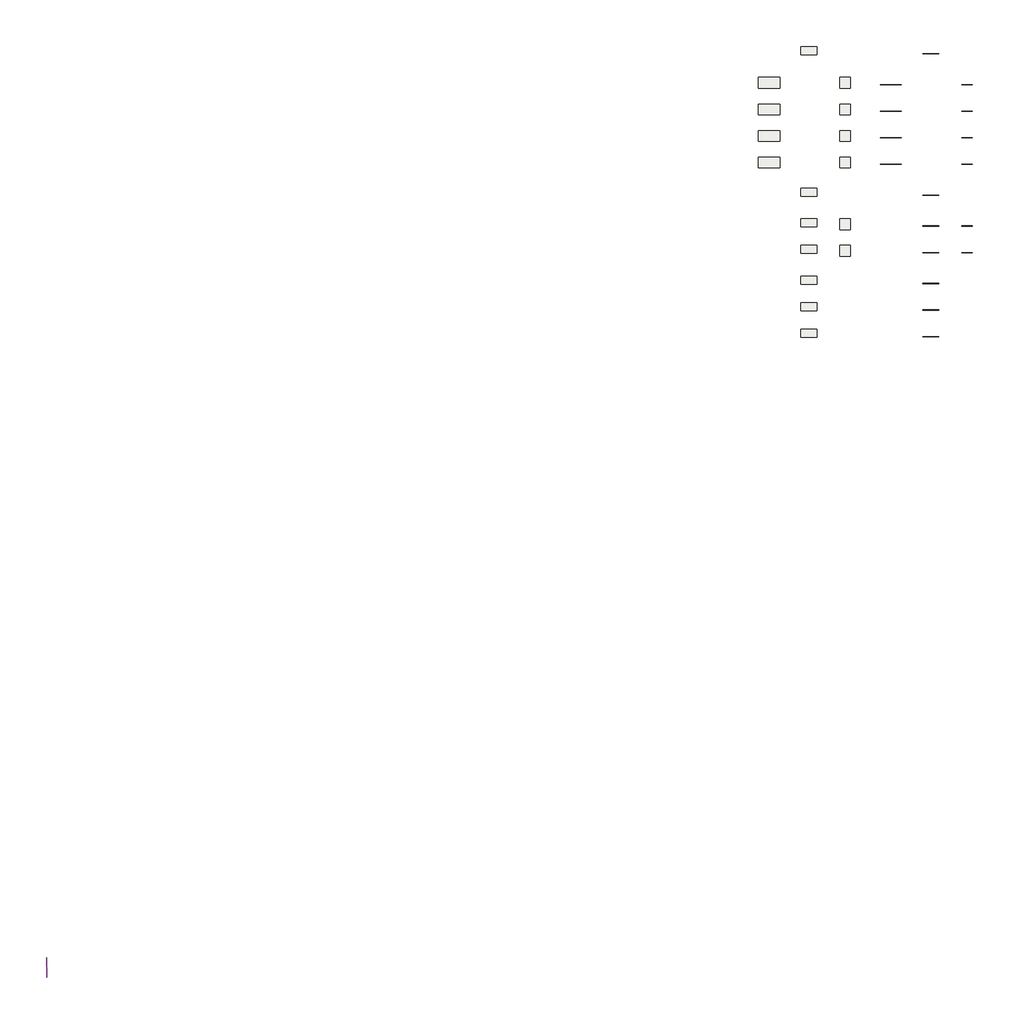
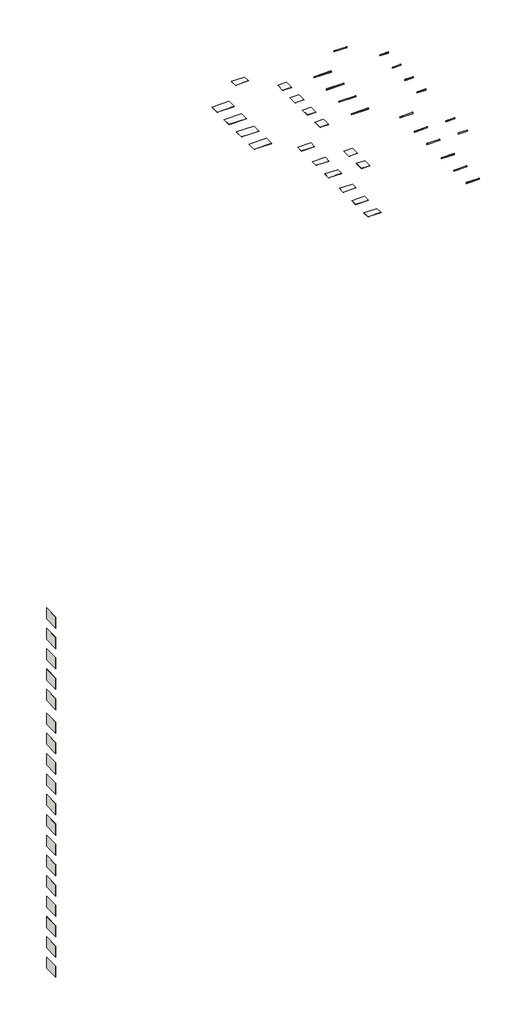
# One storey: 35 walls, 17 proxies, 17 slabs.
"""IFC4 building model written with IfcOpenShell, lengths in millimetres."""

from ifc_helpers import new_model, si_unit, frame, origin, origin_with_axes, place, context, project, spatial, polyline, outline, extrude, element, save

model = new_model("IFC4")

# Units and contexts
model_context = context("Model", 3, world=origin())
ifc_project = project(units=[si_unit("LENGTHUNIT", "METRE", prefix="MILLI")], contexts=[model_context])

# Site, building, storey
site = spatial("IfcSite", under=ifc_project)
building = spatial("IfcBuilding", under=site)
storey = spatial("IfcBuildingStorey", under=building, Name="apariencia CEMENTO", Elevation=0.0)

# Proxies
placement = place(None, origin())
element("IfcBuildingElementProxy", 1, Name="Cesantoni_Frau_8x90_RO_Frau_Mate", ObjectType="Cesantoni_Frau_8x90_RO_Frau_Mate", at=placement, inside=storey, context=model_context, shape_type="SweptSolid", body=[
    extrude(outline(polyline([(8069.8218898, 374.781227), (8069.8218898, 385.781227), (8969.8218898, 385.781227), (8969.8218898, 374.781227), (8069.8218898, 374.781227)])), origin_with_axes(), (0.0, 0.0, 1.0), 80.0),
])
element("IfcBuildingElementProxy", 2, Name="Cesantoni_Leighton_8x60_RO_Sand_Mate", ObjectType="Cesantoni_Leighton_8x60_RO_Sand_Mate", at=placement, inside=storey, context=model_context, shape_type="SweptSolid", body=[
    extrude(outline(polyline([(10269.8218898, -1375.218773), (10269.8218898, -1364.218773), (10869.8218898, -1364.218773), (10869.8218898, -1375.218773), (10269.8218898, -1375.218773)])), origin_with_axes(), (0.0, 0.0, 1.0), 80.0),
])
element("IfcBuildingElementProxy", 3, Name="Cesantoni_Leighton_8x60_RO_Light_Mate", ObjectType="Cesantoni_Leighton_8x60_RO_Light_Mate", at=placement, inside=storey, context=model_context, shape_type="SweptSolid", body=[
    extrude(outline(polyline([(10269.8218898, -2875.218773), (10269.8218898, -2864.218773), (10869.8218898, -2864.218773), (10869.8218898, -2875.218773), (10269.8218898, -2875.218773)])), origin_with_axes(), (0.0, 0.0, 1.0), 80.0),
])
element("IfcBuildingElementProxy", 4, Name="Cesantoni_Leighton_8x60_RO_Gray_Mate", ObjectType="Cesantoni_Leighton_8x60_RO_Gray_Mate", at=placement, inside=storey, context=model_context, shape_type="SweptSolid", body=[
    extrude(outline(polyline([(10269.8218898, -4375.218773), (10269.8218898, -4364.218773), (10869.8218898, -4364.218773), (10869.8218898, -4375.218773), (10269.8218898, -4375.218773)])), origin_with_axes(), (0.0, 0.0, 1.0), 80.0),
])
element("IfcBuildingElementProxy", 5, Name="Cesantoni_Leighton_8x60_RO_Dark_Mate", ObjectType="Cesantoni_Leighton_8x60_RO_Dark_Mate", at=placement, inside=storey, context=model_context, shape_type="SweptSolid", body=[
    extrude(outline(polyline([(10269.8218898, -5875.218773), (10269.8218898, -5864.218773), (10869.8218898, -5864.218773), (10869.8218898, -5875.218773), (10269.8218898, -5875.218773)])), origin_with_axes(), (0.0, 0.0, 1.0), 80.0),
])
element("IfcBuildingElementProxy", 6, Name="Cesantoni_Leighton_8x120_RO_Sand_Mate", ObjectType="Cesantoni_Leighton_8x120_RO_Sand_Mate", at=placement, inside=storey, context=model_context, shape_type="SweptSolid", body=[
    extrude(outline(polyline([(5669.8218898, -1375.218773), (5669.8218898, -1364.218773), (6869.8218898, -1364.218773), (6869.8218898, -1375.218773), (5669.8218898, -1375.218773)])), origin_with_axes(), (0.0, 0.0, 1.0), 80.0),
])
element("IfcBuildingElementProxy", 7, Name="Cesantoni_Leighton_8x120_RO_Light_Mate", ObjectType="Cesantoni_Leighton_8x120_RO_Light_Mate", at=placement, inside=storey, context=model_context, shape_type="SweptSolid", body=[
    extrude(outline(polyline([(5669.8218898, -2875.218773), (5669.8218898, -2864.218773), (6869.8218898, -2864.218773), (6869.8218898, -2875.218773), (5669.8218898, -2875.218773)])), origin_with_axes(), (0.0, 0.0, 1.0), 80.0),
])
element("IfcBuildingElementProxy", 8, Name="Cesantoni_Leighton_8x120_RO_Gray_Mate", ObjectType="Cesantoni_Leighton_8x120_RO_Gray_Mate", at=placement, inside=storey, context=model_context, shape_type="SweptSolid", body=[
    extrude(outline(polyline([(5669.8218898, -4375.218773), (5669.8218898, -4364.218773), (6869.8218898, -4364.218773), (6869.8218898, -4375.218773), (5669.8218898, -4375.218773)])), origin_with_axes(), (0.0, 0.0, 1.0), 80.0),
])
element("IfcBuildingElementProxy", 9, Name="Cesantoni_Leighton_8x120_RO_Dark_Mate", ObjectType="Cesantoni_Leighton_8x120_RO_Dark_Mate", at=placement, inside=storey, context=model_context, shape_type="SweptSolid", body=[
    extrude(outline(polyline([(5669.8218898, -5875.218773), (5669.8218898, -5864.218773), (6869.8218898, -5864.218773), (6869.8218898, -5875.218773), (5669.8218898, -5875.218773)])), origin_with_axes(), (0.0, 0.0, 1.0), 80.0),
])
element("IfcBuildingElementProxy", 10, Name="Cesantoni_Nouvelle_8x90_RO_Nouvelle_Mate", ObjectType="Cesantoni_Nouvelle_8x90_RO_Nouvelle_Mate", at=placement, inside=storey, context=model_context, shape_type="SweptSolid", body=[
    extrude(outline(polyline([(8069.8218898, -7625.218773), (8069.8218898, -7614.218773), (8969.8218898, -7614.218773), (8969.8218898, -7625.218773), (8069.8218898, -7625.218773)])), origin_with_axes(), (0.0, 0.0, 1.0), 80.0),
])
element("IfcBuildingElementProxy", 11, Name="Cesantoni_Padova_8x60_RO_Oxford_Mate", ObjectType="Cesantoni_Padova_8x60_RO_Oxford_Mate", at=placement, inside=storey, context=model_context, shape_type="SweptSolid", body=[
    extrude(outline(polyline([(10269.8218898, -9375.218773), (10269.8218898, -9364.218773), (10869.8218898, -9364.218773), (10869.8218898, -9375.218773), (10269.8218898, -9375.218773)])), origin_with_axes(), (0.0, 0.0, 1.0), 80.0),
])
element("IfcBuildingElementProxy", 12, Name="Cesantoni_Padova_8x60_RO_Perla_Mate", ObjectType="Cesantoni_Padova_8x60_RO_Perla_Mate", at=placement, inside=storey, context=model_context, shape_type="SweptSolid", body=[
    extrude(outline(polyline([(10269.8218898, -10875.218773), (10269.8218898, -10864.218773), (10869.8218898, -10864.218773), (10869.8218898, -10875.218773), (10269.8218898, -10875.218773)])), origin_with_axes(), (0.0, 0.0, 1.0), 80.0),
])
element("IfcBuildingElementProxy", 13, Name="Cesantoni_Padova _8x90_RO_Oxford_Mate", ObjectType="Cesantoni_Padova _8x90_RO_Oxford_Mate", at=placement, inside=storey, context=model_context, shape_type="SweptSolid", body=[
    extrude(outline(polyline([(8069.8218898, -9375.218773), (8069.8218898, -9364.218773), (8969.8218898, -9364.218773), (8969.8218898, -9375.218773), (8069.8218898, -9375.218773)])), origin_with_axes(), (0.0, 0.0, 1.0), 80.0),
])
element("IfcBuildingElementProxy", 14, Name="Cesantoni_Padova _8x90_RO_Perla_Mate", ObjectType="Cesantoni_Padova _8x90_RO_Perla_Mate", at=placement, inside=storey, context=model_context, shape_type="SweptSolid", body=[
    extrude(outline(polyline([(8069.8218898, -10875.218773), (8069.8218898, -10864.218773), (8969.8218898, -10864.218773), (8969.8218898, -10875.218773), (8069.8218898, -10875.218773)])), origin_with_axes(), (0.0, 0.0, 1.0), 80.0),
])
element("IfcBuildingElementProxy", 15, Name="Cesantoni_Trenton_8x90_RO_Sand_Mate", ObjectType="Cesantoni_Trenton_8x90_RO_Sand_Mate", at=placement, inside=storey, context=model_context, shape_type="SweptSolid", body=[
    extrude(outline(polyline([(8069.8218898, -12625.218773), (8069.8218898, -12614.218773), (8969.8218898, -12614.218773), (8969.8218898, -12625.218773), (8069.8218898, -12625.218773)])), origin_with_axes(), (0.0, 0.0, 1.0), 80.0),
])
element("IfcBuildingElementProxy", 16, Name="Cesantoni_Trenton_8x90_RO_Light Gray_Mate", ObjectType="Cesantoni_Trenton_8x90_RO_Light Gray_Mate", at=placement, inside=storey, context=model_context, shape_type="SweptSolid", body=[
    extrude(outline(polyline([(8069.8218898, -14125.218773), (8069.8218898, -14114.218773), (8969.8218898, -14114.218773), (8969.8218898, -14125.218773), (8069.8218898, -14125.218773)])), origin_with_axes(), (0.0, 0.0, 1.0), 80.0),
])
element("IfcBuildingElementProxy", 17, Name="Cesantoni_Trenton_8x90_RO_Silver_Mate", ObjectType="Cesantoni_Trenton_8x90_RO_Silver_Mate", at=placement, inside=storey, context=model_context, shape_type="SweptSolid", body=[
    extrude(outline(polyline([(8069.8218898, -15625.218773), (8069.8218898, -15614.218773), (8969.8218898, -15614.218773), (8969.8218898, -15625.218773), (8069.8218898, -15625.218773)])), origin_with_axes(), (0.0, 0.0, 1.0), 80.0),
])

# Slabs
element("IfcSlab", 18, ObjectType="Cesantoni_Frau_45x90_RECT_Frau_Mate", at=placement, inside=storey, context=model_context, shape_type="SweptSolid", body=[
    extrude(outline(polyline([(2071.8218898, 784.4826442), (2071.8218898, 332.4826442), (1169.8218898, 332.4826442), (1169.8218898, 784.4826442), (2071.8218898, 784.4826442)])), frame((0.0, 0.0, -11.0), z_axis=(0.0, 0.0, 1.0), x_axis=(1.0, 0.0, 0.0)), (0.0, 0.0, 1.0), 11.0),
])
element("IfcSlab", 19, ObjectType="Cesantoni_Leighton_60x120_RECT_Sand_Mate", at=placement, inside=storey, context=model_context, shape_type="SweptSolid", body=[
    extrude(outline(polyline([(-28.1781102, -965.5173558), (-28.1781102, -1567.5173558), (-1230.1781102, -1567.5173558), (-1230.1781102, -965.5173558), (-28.1781102, -965.5173558)])), frame((0.0, 0.0, -11.0), z_axis=(0.0, 0.0, 1.0), x_axis=(1.0, 0.0, 0.0)), (0.0, 0.0, 1.0), 11.0),
])
element("IfcSlab", 20, ObjectType="Cesantoni_Leighton_60x120_RECT_Light_Mate", at=placement, inside=storey, context=model_context, shape_type="SweptSolid", body=[
    extrude(outline(polyline([(-28.1781102, -2465.5173558), (-28.1781102, -3067.5173558), (-1230.1781102, -3067.5173558), (-1230.1781102, -2465.5173558), (-28.1781102, -2465.5173558)])), frame((0.0, 0.0, -11.0), z_axis=(0.0, 0.0, 1.0), x_axis=(1.0, 0.0, 0.0)), (0.0, 0.0, 1.0), 11.0),
])
element("IfcSlab", 21, ObjectType="Cesantoni_Leighton_60x120_RECT_Gray_Mate", at=placement, inside=storey, context=model_context, shape_type="SweptSolid", body=[
    extrude(outline(polyline([(-28.1781102, -3965.5173558), (-28.1781102, -4567.5173558), (-1230.1781102, -4567.5173558), (-1230.1781102, -3965.5173558), (-28.1781102, -3965.5173558)])), frame((0.0, 0.0, -11.0), z_axis=(0.0, 0.0, 1.0), x_axis=(1.0, 0.0, 0.0)), (0.0, 0.0, 1.0), 11.0),
])
element("IfcSlab", 22, ObjectType="Cesantoni_Leighton_60x120_RECT_Dark_Mate", at=placement, inside=storey, context=model_context, shape_type="SweptSolid", body=[
    extrude(outline(polyline([(-28.1781102, -5465.5173558), (-28.1781102, -6067.5173558), (-1230.1781102, -6067.5173558), (-1230.1781102, -5465.5173558), (-28.1781102, -5465.5173558)])), frame((0.0, 0.0, -11.0), z_axis=(0.0, 0.0, 1.0), x_axis=(1.0, 0.0, 0.0)), (0.0, 0.0, 1.0), 11.0),
])
element("IfcSlab", 23, ObjectType="Cesantoni_Leighton_60x60_RECT_Sand_Mate", at=placement, inside=storey, context=model_context, shape_type="SweptSolid", body=[
    extrude(outline(polyline([(3971.8218898, -965.5173558), (3971.8218898, -1567.5173558), (3369.8218898, -1567.5173558), (3369.8218898, -965.5173558), (3971.8218898, -965.5173558)])), frame((0.0, 0.0, -11.0), z_axis=(0.0, 0.0, 1.0), x_axis=(1.0, 0.0, 0.0)), (0.0, 0.0, 1.0), 11.0),
])
element("IfcSlab", 24, ObjectType="Cesantoni_Leighton_60x60_RECT_Light_Mate", at=placement, inside=storey, context=model_context, shape_type="SweptSolid", body=[
    extrude(outline(polyline([(3971.8218898, -2465.5173558), (3971.8218898, -3067.5173558), (3369.8218898, -3067.5173558), (3369.8218898, -2465.5173558), (3971.8218898, -2465.5173558)])), frame((0.0, 0.0, -11.0), z_axis=(0.0, 0.0, 1.0), x_axis=(1.0, 0.0, 0.0)), (0.0, 0.0, 1.0), 11.0),
])
element("IfcSlab", 25, ObjectType="Cesantoni_Leighton_60x60_RECT_Gray_Mate", at=placement, inside=storey, context=model_context, shape_type="SweptSolid", body=[
    extrude(outline(polyline([(3971.8218898, -3965.5173558), (3971.8218898, -4567.5173558), (3369.8218898, -4567.5173558), (3369.8218898, -3965.5173558), (3971.8218898, -3965.5173558)])), frame((0.0, 0.0, -11.0), z_axis=(0.0, 0.0, 1.0), x_axis=(1.0, 0.0, 0.0)), (0.0, 0.0, 1.0), 11.0),
])
element("IfcSlab", 26, ObjectType="Cesantoni_Leighton_60x60_RECT_Dark_Mate", at=placement, inside=storey, context=model_context, shape_type="SweptSolid", body=[
    extrude(outline(polyline([(3971.8218898, -5465.5173558), (3971.8218898, -6067.5173558), (3369.8218898, -6067.5173558), (3369.8218898, -5465.5173558), (3971.8218898, -5465.5173558)])), frame((0.0, 0.0, -11.0), z_axis=(0.0, 0.0, 1.0), x_axis=(1.0, 0.0, 0.0)), (0.0, 0.0, 1.0), 11.0),
])
element("IfcSlab", 27, ObjectType="Cesantoni_Nouvelle_45x90_RECT_Nouvelle_Mate", at=placement, inside=storey, context=model_context, shape_type="SweptSolid", body=[
    extrude(outline(polyline([(2071.8218898, -7215.5173558), (2071.8218898, -7667.5173558), (1169.8218898, -7667.5173558), (1169.8218898, -7215.5173558), (2071.8218898, -7215.5173558)])), frame((0.0, 0.0, -11.0), z_axis=(0.0, 0.0, 1.0), x_axis=(1.0, 0.0, 0.0)), (0.0, 0.0, 1.0), 11.0),
])
element("IfcSlab", 28, ObjectType="Cesantoni_Padova_60x60_RECT_Oxford_Mate", at=placement, inside=storey, context=model_context, shape_type="SweptSolid", body=[
    extrude(outline(polyline([(3971.8218898, -8965.5173558), (3971.8218898, -9567.5173558), (3369.8218898, -9567.5173558), (3369.8218898, -8965.5173558), (3971.8218898, -8965.5173558)])), frame((0.0, 0.0, -11.0), z_axis=(0.0, 0.0, 1.0), x_axis=(1.0, 0.0, 0.0)), (0.0, 0.0, 1.0), 11.0),
])
element("IfcSlab", 29, ObjectType="Cesantoni_Padova_60x60_RECT_Perla_Mate", at=placement, inside=storey, context=model_context, shape_type="SweptSolid", body=[
    extrude(outline(polyline([(3971.8218898, -10465.5173558), (3971.8218898, -11067.5173558), (3369.8218898, -11067.5173558), (3369.8218898, -10465.5173558), (3971.8218898, -10465.5173558)])), frame((0.0, 0.0, -11.0), z_axis=(0.0, 0.0, 1.0), x_axis=(1.0, 0.0, 0.0)), (0.0, 0.0, 1.0), 11.0),
])
element("IfcSlab", 30, ObjectType="Cesantoni_Padova _45x90_RECT_Oxford_Mate", at=placement, inside=storey, context=model_context, shape_type="SweptSolid", body=[
    extrude(outline(polyline([(2071.8218898, -8965.5173558), (2071.8218898, -9417.5173558), (1169.8218898, -9417.5173558), (1169.8218898, -8965.5173558), (2071.8218898, -8965.5173558)])), frame((0.0, 0.0, -11.0), z_axis=(0.0, 0.0, 1.0), x_axis=(1.0, 0.0, 0.0)), (0.0, 0.0, 1.0), 11.0),
])
element("IfcSlab", 31, ObjectType="Cesantoni_Padova _45x90_RECT_Perla_Mate", at=placement, inside=storey, context=model_context, shape_type="SweptSolid", body=[
    extrude(outline(polyline([(2071.8218898, -10465.5173558), (2071.8218898, -10917.5173558), (1169.8218898, -10917.5173558), (1169.8218898, -10465.5173558), (2071.8218898, -10465.5173558)])), frame((0.0, 0.0, -11.0), z_axis=(0.0, 0.0, 1.0), x_axis=(1.0, 0.0, 0.0)), (0.0, 0.0, 1.0), 11.0),
])
element("IfcSlab", 32, ObjectType="Cesantoni_Trenton_45x90_RECT_Sand_Mate", at=placement, inside=storey, context=model_context, shape_type="SweptSolid", body=[
    extrude(outline(polyline([(2071.8218898, -12215.5173558), (2071.8218898, -12667.5173558), (1169.8218898, -12667.5173558), (1169.8218898, -12215.5173558), (2071.8218898, -12215.5173558)])), frame((0.0, 0.0, -11.0), z_axis=(0.0, 0.0, 1.0), x_axis=(1.0, 0.0, 0.0)), (0.0, 0.0, 1.0), 11.0),
])
element("IfcSlab", 33, ObjectType="Cesantoni_Trenton_45x90_RECT_Light Gray_Mate", at=placement, inside=storey, context=model_context, shape_type="SweptSolid", body=[
    extrude(outline(polyline([(2071.8218898, -13715.5173558), (2071.8218898, -14167.5173558), (1169.8218898, -14167.5173558), (1169.8218898, -13715.5173558), (2071.8218898, -13715.5173558)])), frame((0.0, 0.0, -11.0), z_axis=(0.0, 0.0, 1.0), x_axis=(1.0, 0.0, 0.0)), (0.0, 0.0, 1.0), 11.0),
])
element("IfcSlab", 34, ObjectType="Cesantoni_Trenton_45x90_RECT_Silver_Mate", at=placement, inside=storey, context=model_context, shape_type="SweptSolid", body=[
    extrude(outline(polyline([(2071.8218898, -15215.5173558), (2071.8218898, -15667.5173558), (1169.8218898, -15667.5173558), (1169.8218898, -15215.5173558), (2071.8218898, -15215.5173558)])), frame((0.0, 0.0, -11.0), z_axis=(0.0, 0.0, 1.0), x_axis=(1.0, 0.0, 0.0)), (0.0, 0.0, 1.0), 11.0),
])

# Walls
element("IfcWall", 35, ObjectType="Muro básico:muro", at=placement, inside=storey, context=model_context, shape_type="SweptSolid", body=[
    extrude(outline(polyline([(8969.8218898, 385.781227), (8069.8218898, 385.781227), (8069.8218898, 386.781227), (8969.8218898, 386.781227), (8969.8218898, 385.781227)])), origin_with_axes(), (0.0, 0.0, 1.0), 40.0),
])
element("IfcWall", 36, ObjectType="Muro básico:muro", at=placement, inside=storey, context=model_context, shape_type="SweptSolid", body=[
    extrude(outline(polyline([(10869.8218898, -1364.218773), (10269.8218898, -1364.218773), (10269.8218898, -1363.218773), (10869.8218898, -1363.218773), (10869.8218898, -1364.218773)])), origin_with_axes(), (0.0, 0.0, 1.0), 40.0),
])
element("IfcWall", 37, ObjectType="Muro básico:muro", at=placement, inside=storey, context=model_context, shape_type="SweptSolid", body=[
    extrude(outline(polyline([(10869.8218898, -2864.218773), (10269.8218898, -2864.218773), (10269.8218898, -2863.218773), (10869.8218898, -2863.218773), (10869.8218898, -2864.218773)])), origin_with_axes(), (0.0, 0.0, 1.0), 40.0),
])
element("IfcWall", 38, ObjectType="Muro básico:muro", at=placement, inside=storey, context=model_context, shape_type="SweptSolid", body=[
    extrude(outline(polyline([(10869.8218898, -4364.218773), (10269.8218898, -4364.218773), (10269.8218898, -4363.218773), (10869.8218898, -4363.218773), (10869.8218898, -4364.218773)])), origin_with_axes(), (0.0, 0.0, 1.0), 40.0),
])
element("IfcWall", 39, ObjectType="Muro básico:muro", at=placement, inside=storey, context=model_context, shape_type="SweptSolid", body=[
    extrude(outline(polyline([(10869.8218898, -5864.218773), (10269.8218898, -5864.218773), (10269.8218898, -5863.218773), (10869.8218898, -5863.218773), (10869.8218898, -5864.218773)])), origin_with_axes(), (0.0, 0.0, 1.0), 40.0),
])
element("IfcWall", 40, ObjectType="Muro básico:muro", at=placement, inside=storey, context=model_context, shape_type="SweptSolid", body=[
    extrude(outline(polyline([(6869.8218898, -1364.218773), (5669.8218898, -1364.218773), (5669.8218898, -1363.218773), (6869.8218898, -1363.218773), (6869.8218898, -1364.218773)])), origin_with_axes(), (0.0, 0.0, 1.0), 40.0),
])
element("IfcWall", 41, ObjectType="Muro básico:muro", at=placement, inside=storey, context=model_context, shape_type="SweptSolid", body=[
    extrude(outline(polyline([(6869.8218898, -2864.218773), (5669.8218898, -2864.218773), (5669.8218898, -2863.218773), (6869.8218898, -2863.218773), (6869.8218898, -2864.218773)])), origin_with_axes(), (0.0, 0.0, 1.0), 40.0),
])
element("IfcWall", 42, ObjectType="Muro básico:muro", at=placement, inside=storey, context=model_context, shape_type="SweptSolid", body=[
    extrude(outline(polyline([(6869.8218898, -4364.218773), (5669.8218898, -4364.218773), (5669.8218898, -4363.218773), (6869.8218898, -4363.218773), (6869.8218898, -4364.218773)])), origin_with_axes(), (0.0, 0.0, 1.0), 40.0),
])
element("IfcWall", 43, ObjectType="Muro básico:muro", at=placement, inside=storey, context=model_context, shape_type="SweptSolid", body=[
    extrude(outline(polyline([(6869.8218898, -5864.218773), (5669.8218898, -5864.218773), (5669.8218898, -5863.218773), (6869.8218898, -5863.218773), (6869.8218898, -5864.218773)])), origin_with_axes(), (0.0, 0.0, 1.0), 40.0),
])
element("IfcWall", 44, ObjectType="Muro básico:muro", at=placement, inside=storey, context=model_context, shape_type="SweptSolid", body=[
    extrude(outline(polyline([(8969.8218898, -7614.218773), (8069.8218898, -7614.218773), (8069.8218898, -7613.218773), (8969.8218898, -7613.218773), (8969.8218898, -7614.218773)])), origin_with_axes(), (0.0, 0.0, 1.0), 40.0),
])
element("IfcWall", 45, ObjectType="Muro básico:muro", at=placement, inside=storey, context=model_context, shape_type="SweptSolid", body=[
    extrude(outline(polyline([(10869.8218898, -9364.218773), (10269.8218898, -9364.218773), (10269.8218898, -9363.218773), (10869.8218898, -9363.218773), (10869.8218898, -9364.218773)])), origin_with_axes(), (0.0, 0.0, 1.0), 40.0),
])
element("IfcWall", 46, ObjectType="Muro básico:muro", at=placement, inside=storey, context=model_context, shape_type="SweptSolid", body=[
    extrude(outline(polyline([(10869.8218898, -10864.218773), (10269.8218898, -10864.218773), (10269.8218898, -10863.218773), (10869.8218898, -10863.218773), (10869.8218898, -10864.218773)])), origin_with_axes(), (0.0, 0.0, 1.0), 40.0),
])
element("IfcWall", 47, ObjectType="Muro básico:muro", at=placement, inside=storey, context=model_context, shape_type="SweptSolid", body=[
    extrude(outline(polyline([(8969.8218898, -9364.218773), (8069.8218898, -9364.218773), (8069.8218898, -9363.218773), (8969.8218898, -9363.218773), (8969.8218898, -9364.218773)])), origin_with_axes(), (0.0, 0.0, 1.0), 40.0),
])
element("IfcWall", 48, ObjectType="Muro básico:muro", at=placement, inside=storey, context=model_context, shape_type="SweptSolid", body=[
    extrude(outline(polyline([(8969.8218898, -10864.218773), (8069.8218898, -10864.218773), (8069.8218898, -10863.218773), (8969.8218898, -10863.218773), (8969.8218898, -10864.218773)])), origin_with_axes(), (0.0, 0.0, 1.0), 40.0),
])
element("IfcWall", 49, ObjectType="Muro básico:muro", at=placement, inside=storey, context=model_context, shape_type="SweptSolid", body=[
    extrude(outline(polyline([(8969.8218898, -12614.218773), (8069.8218898, -12614.218773), (8069.8218898, -12613.218773), (8969.8218898, -12613.218773), (8969.8218898, -12614.218773)])), origin_with_axes(), (0.0, 0.0, 1.0), 40.0),
])
element("IfcWall", 50, ObjectType="Muro básico:muro", at=placement, inside=storey, context=model_context, shape_type="SweptSolid", body=[
    extrude(outline(polyline([(8969.8218898, -14114.218773), (8069.8218898, -14114.218773), (8069.8218898, -14113.218773), (8969.8218898, -14113.218773), (8969.8218898, -14114.218773)])), origin_with_axes(), (0.0, 0.0, 1.0), 40.0),
])
element("IfcWall", 51, ObjectType="Muro básico:muro", at=placement, inside=storey, context=model_context, shape_type="SweptSolid", body=[
    extrude(outline(polyline([(8969.8218898, -15614.218773), (8069.8218898, -15614.218773), (8069.8218898, -15613.218773), (8969.8218898, -15613.218773), (8969.8218898, -15614.218773)])), origin_with_axes(), (0.0, 0.0, 1.0), 40.0),
])
element("IfcWall", 52, ObjectType="Cesantoni_Charlot_28.3x7.2_Graphite Mate_Mate", at=placement, inside=storey, context=model_context, shape_type="SweptSolid", body=[
    extrude(outline(polyline([(-41497.3407204, -50736.7282789), (-41497.3407204, -51856.7282789), (-41507.3407204, -51856.7282789), (-41507.3407204, -50736.7282789), (-41497.3407204, -50736.7282789)])), frame((0.0, 0.0, 6546.5829342), z_axis=(0.0, 0.0, 1.0), x_axis=(1.0, 0.0, 0.0)), (0.0, 0.0, 1.0), 812.8042727),
])
element("IfcWall", 53, ObjectType="Cesantoni_Charlot_28.3x7.2_Blanco Mate_Mate", at=placement, inside=storey, context=model_context, shape_type="SweptSolid", body=[
    extrude(outline(polyline([(-41497.3407204, -50736.7282789), (-41497.3407204, -51856.7282789), (-41507.3407204, -51856.7282789), (-41507.3407204, -50736.7282789), (-41497.3407204, -50736.7282789)])), frame((0.0, 0.0, 5046.5829342), z_axis=(0.0, 0.0, 1.0), x_axis=(1.0, 0.0, 0.0)), (0.0, 0.0, 1.0), 812.8042727),
])
element("IfcWall", 54, ObjectType="Cesantoni_Charlot_28.3x7.2_Blanco_Brillante", at=placement, inside=storey, context=model_context, shape_type="SweptSolid", body=[
    extrude(outline(polyline([(-41497.3407204, -50736.7282789), (-41497.3407204, -51856.7282789), (-41507.3407204, -51856.7282789), (-41507.3407204, -50736.7282789), (-41497.3407204, -50736.7282789)])), frame((0.0, 0.0, 3546.5829342), z_axis=(0.0, 0.0, 1.0), x_axis=(1.0, 0.0, 0.0)), (0.0, 0.0, 1.0), 812.8042727),
])
element("IfcWall", 55, ObjectType="Cesantoni_Charlot_28.3x7.2_Negro Mate_Mate", at=placement, inside=storey, context=model_context, shape_type="SweptSolid", body=[
    extrude(outline(polyline([(-41497.3407204, -50736.7282789), (-41497.3407204, -51856.7282789), (-41507.3407204, -51856.7282789), (-41507.3407204, -50736.7282789), (-41497.3407204, -50736.7282789)])), frame((0.0, 0.0, 2046.5829342), z_axis=(0.0, 0.0, 1.0), x_axis=(1.0, 0.0, 0.0)), (0.0, 0.0, 1.0), 812.8042727),
])
element("IfcWall", 56, ObjectType="Cesantoni_Charlot_28.3x7.2_Negro_Brillante", at=placement, inside=storey, context=model_context, shape_type="SweptSolid", body=[
    extrude(outline(polyline([(-41497.3407204, -50736.7282789), (-41497.3407204, -51856.7282789), (-41507.3407204, -51856.7282789), (-41507.3407204, -50736.7282789), (-41497.3407204, -50736.7282789)])), frame((0.0, 0.0, 546.5829342), z_axis=(0.0, 0.0, 1.0), x_axis=(1.0, 0.0, 0.0)), (0.0, 0.0, 1.0), 812.8042727),
])
element("IfcWall", 57, ObjectType="Cesantoni_Edimburgo_28.3x7.2_Pearl Rose_Brillante", at=placement, inside=storey, context=model_context, shape_type="SweptSolid", body=[
    extrude(outline(polyline([(-41497.3407204, -50736.7282789), (-41497.3407204, -51856.7282789), (-41507.3407204, -51856.7282789), (-41507.3407204, -50736.7282789), (-41497.3407204, -50736.7282789)])), frame((0.0, 0.0, -1203.4170658), z_axis=(0.0, 0.0, 1.0), x_axis=(1.0, 0.0, 0.0)), (0.0, 0.0, 1.0), 812.8042727),
])
element("IfcWall", 58, ObjectType="Cesantoni_Edimburgo_28.3x7.2_Ambar_Brillante", at=placement, inside=storey, context=model_context, shape_type="SweptSolid", body=[
    extrude(outline(polyline([(-41497.3407204, -50736.7282789), (-41497.3407204, -51856.7282789), (-41507.3407204, -51856.7282789), (-41507.3407204, -50736.7282789), (-41497.3407204, -50736.7282789)])), frame((0.0, 0.0, -2703.4170658), z_axis=(0.0, 0.0, 1.0), x_axis=(1.0, 0.0, 0.0)), (0.0, 0.0, 1.0), 812.8042727),
])
element("IfcWall", 59, ObjectType="Cesantoni_Edimburgo_28.3x7.2_Coral_Brillante", at=placement, inside=storey, context=model_context, shape_type="SweptSolid", body=[
    extrude(outline(polyline([(-41497.3407204, -50736.7282789), (-41497.3407204, -51856.7282789), (-41507.3407204, -51856.7282789), (-41507.3407204, -50736.7282789), (-41497.3407204, -50736.7282789)])), frame((0.0, 0.0, -4203.4170658), z_axis=(0.0, 0.0, 1.0), x_axis=(1.0, 0.0, 0.0)), (0.0, 0.0, 1.0), 812.8042727),
])
element("IfcWall", 60, ObjectType="Cesantoni_Edimburgo_28.3x7.2_Obsidian_Brillante", at=placement, inside=storey, context=model_context, shape_type="SweptSolid", body=[
    extrude(outline(polyline([(-41497.3407204, -50736.7282789), (-41497.3407204, -51856.7282789), (-41507.3407204, -51856.7282789), (-41507.3407204, -50736.7282789), (-41497.3407204, -50736.7282789)])), frame((0.0, 0.0, -5703.4170658), z_axis=(0.0, 0.0, 1.0), x_axis=(1.0, 0.0, 0.0)), (0.0, 0.0, 1.0), 812.8042727),
])
element("IfcWall", 61, ObjectType="Cesantoni_Edimburgo_28.3x7.2_Olive_Brillante", at=placement, inside=storey, context=model_context, shape_type="SweptSolid", body=[
    extrude(outline(polyline([(-41497.3407204, -50736.7282789), (-41497.3407204, -51856.7282789), (-41507.3407204, -51856.7282789), (-41507.3407204, -50736.7282789), (-41497.3407204, -50736.7282789)])), frame((0.0, 0.0, -7203.4170658), z_axis=(0.0, 0.0, 1.0), x_axis=(1.0, 0.0, 0.0)), (0.0, 0.0, 1.0), 812.8042727),
])
element("IfcWall", 62, ObjectType="Cesantoni_Edimburgo_28.3x7.2_Marfil Mate_Mate", at=placement, inside=storey, context=model_context, shape_type="SweptSolid", body=[
    extrude(outline(polyline([(-41497.3407204, -50736.7282789), (-41497.3407204, -51856.7282789), (-41507.3407204, -51856.7282789), (-41507.3407204, -50736.7282789), (-41497.3407204, -50736.7282789)])), frame((0.0, 0.0, -8703.4170658), z_axis=(0.0, 0.0, 1.0), x_axis=(1.0, 0.0, 0.0)), (0.0, 0.0, 1.0), 812.8042727),
])
element("IfcWall", 63, ObjectType="Cesantoni_Edimburgo_28.3x7.2_Marfil_Brillante", at=placement, inside=storey, context=model_context, shape_type="SweptSolid", body=[
    extrude(outline(polyline([(-41497.3407204, -50736.7282789), (-41497.3407204, -51856.7282789), (-41507.3407204, -51856.7282789), (-41507.3407204, -50736.7282789), (-41497.3407204, -50736.7282789)])), frame((0.0, 0.0, -10203.4170658), z_axis=(0.0, 0.0, 1.0), x_axis=(1.0, 0.0, 0.0)), (0.0, 0.0, 1.0), 812.8042727),
])
element("IfcWall", 64, ObjectType="Cesantoni_Edimburgo_28.3x7.2_Taupé Mate_Mate", at=placement, inside=storey, context=model_context, shape_type="SweptSolid", body=[
    extrude(outline(polyline([(-41497.3407204, -50736.7282789), (-41497.3407204, -51856.7282789), (-41507.3407204, -51856.7282789), (-41507.3407204, -50736.7282789), (-41497.3407204, -50736.7282789)])), frame((0.0, 0.0, -11703.4170658), z_axis=(0.0, 0.0, 1.0), x_axis=(1.0, 0.0, 0.0)), (0.0, 0.0, 1.0), 812.8042727),
])
element("IfcWall", 65, ObjectType="Cesantoni_Edimburgo_28.3x7.2_Taupé_Brillante", at=placement, inside=storey, context=model_context, shape_type="SweptSolid", body=[
    extrude(outline(polyline([(-41497.3407204, -50736.7282789), (-41497.3407204, -51856.7282789), (-41507.3407204, -51856.7282789), (-41507.3407204, -50736.7282789), (-41497.3407204, -50736.7282789)])), frame((0.0, 0.0, -13203.4170658), z_axis=(0.0, 0.0, 1.0), x_axis=(1.0, 0.0, 0.0)), (0.0, 0.0, 1.0), 812.8042727),
])
element("IfcWall", 66, ObjectType="Cesantoni_Edimburgo_28.3x7.2_Café Mate_Mate", at=placement, inside=storey, context=model_context, shape_type="SweptSolid", body=[
    extrude(outline(polyline([(-41497.3407204, -50736.7282789), (-41497.3407204, -51856.7282789), (-41507.3407204, -51856.7282789), (-41507.3407204, -50736.7282789), (-41497.3407204, -50736.7282789)])), frame((0.0, 0.0, -14703.4170658), z_axis=(0.0, 0.0, 1.0), x_axis=(1.0, 0.0, 0.0)), (0.0, 0.0, 1.0), 812.8042727),
])
element("IfcWall", 67, ObjectType="Cesantoni_Edimburgo_28.3x7.2_Café_Brillante", at=placement, inside=storey, context=model_context, shape_type="SweptSolid", body=[
    extrude(outline(polyline([(-41497.3407204, -50736.7282789), (-41497.3407204, -51856.7282789), (-41507.3407204, -51856.7282789), (-41507.3407204, -50736.7282789), (-41497.3407204, -50736.7282789)])), frame((0.0, 0.0, -16203.4170658), z_axis=(0.0, 0.0, 1.0), x_axis=(1.0, 0.0, 0.0)), (0.0, 0.0, 1.0), 812.8042727),
])
element("IfcWall", 68, ObjectType="Cesantoni_Edimburgo_28.3x7.2_Oxford Mate_Mate", at=placement, inside=storey, context=model_context, shape_type="SweptSolid", body=[
    extrude(outline(polyline([(-41497.3407204, -50736.7282789), (-41497.3407204, -51856.7282789), (-41507.3407204, -51856.7282789), (-41507.3407204, -50736.7282789), (-41497.3407204, -50736.7282789)])), frame((0.0, 0.0, -17703.4170658), z_axis=(0.0, 0.0, 1.0), x_axis=(1.0, 0.0, 0.0)), (0.0, 0.0, 1.0), 812.8042727),
])
element("IfcWall", 69, ObjectType="Cesantoni_Edimburgo_28.3x7.2_Oxford_Brillante", at=placement, inside=storey, context=model_context, shape_type="SweptSolid", body=[
    extrude(outline(polyline([(-41497.3407204, -50736.7282789), (-41497.3407204, -51856.7282789), (-41507.3407204, -51856.7282789), (-41507.3407204, -50736.7282789), (-41497.3407204, -50736.7282789)])), frame((0.0, 0.0, -19203.4170658), z_axis=(0.0, 0.0, 1.0), x_axis=(1.0, 0.0, 0.0)), (0.0, 0.0, 1.0), 812.8042727),
])

save(model, "model.ifc")
